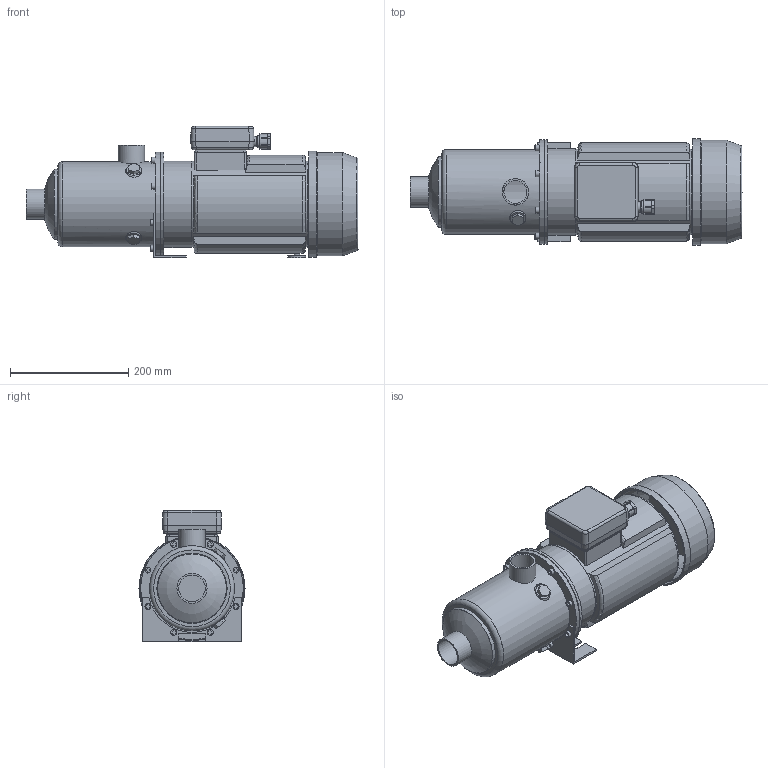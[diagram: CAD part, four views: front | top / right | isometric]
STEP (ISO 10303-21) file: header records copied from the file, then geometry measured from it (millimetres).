
FILE_DESCRIPTION(/* description */ ('Unknown'),/* implementation_level */ '2;1');
FILE_NAME(/* name */ 'MH 9 [5] T6 IE3',/* time_stamp */ '2026-07-10T15:16:07+02:00',/* author */ ('Unknown'),/* organization */ ('Unknown'),/* preprocessor_version */ 'ST-DEVELOPER v20',/* originating_system */ 'Solid Edge',/* authorisation */ 'Unknown');
FILE_SCHEMA (('AUTOMOTIVE_DESIGN {1 0 10303 214 3 1 1}'));
Length unit declared in the file: millimetre
Products named in the file (10): MH 9 [5] T6 IE3; Flangia motore Tonda M90; Corpo MH 9 [5]; Motore MEC 90 - T [3kW IE3]; carcassa MEC 90 [3kW IE3]; Copriventola MEC 90; Ghiera PG13,5 cod. SAV.GHI.20; Basetta MEC 80-90-100 T; Piedino MEC 90 int.90; Staffa 3-5-9 int.90
Assembly tree (9 placements, depth 3):
  MH 9 [5] T6 IE3
    Flangia motore Tonda M90
    Corpo MH 9 [5]
    Motore MEC 90 - T [3kW IE3]
      carcassa MEC 90 [3kW IE3]
      Copriventola MEC 90
      Ghiera PG13,5 cod. SAV.GHI.20
      Basetta MEC 80-90-100 T
    Piedino MEC 90 int.90
    Staffa 3-5-9 int.90
Bounding box: 560.6 x 179.1 x 221.5 mm (x, y, z)
Volume: 3151644.6 mm3; surface area: 717327 mm2
Topology: 8 solids, 8 shells, 321 faces, 765 edges, 506 vertices
Faces by surface type: plane 180, cylinder 100, cone 20, torus 11, bspline 8, sphere 2
Full cylindrical faces by diameter (mm): 7 x4, 10 x9, 13 x1, 17 x1, 19.73 x1, 20.4 x1, 21 x1, 30 x1, 38.952 x1, 44.5 x1, 44.845 x1, 50.8 x1, 116.1 x1, 118.5 x1, 135 x1, 140 x3, 141.1 x1, 143.5 x1, 145 x1, 146 x1, 169.5 x1, 173.5 x1, 174.1 x2, 174.5 x1, 176.5 x2, 179.1 x1
Entity records: 10582 total; most frequent: CARTESIAN_POINT 1969, DIRECTION 1507, ORIENTED_EDGE 1350, EDGE_CURVE 675, AXIS2_PLACEMENT_3D 561, VERTEX_POINT 477, EDGE_LOOP 438, FACE_BOUND 438
